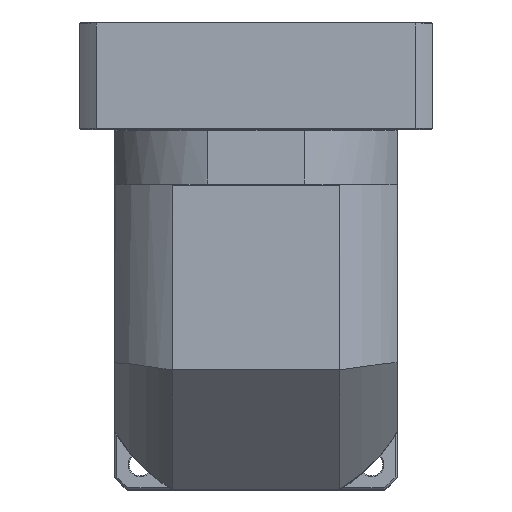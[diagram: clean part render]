
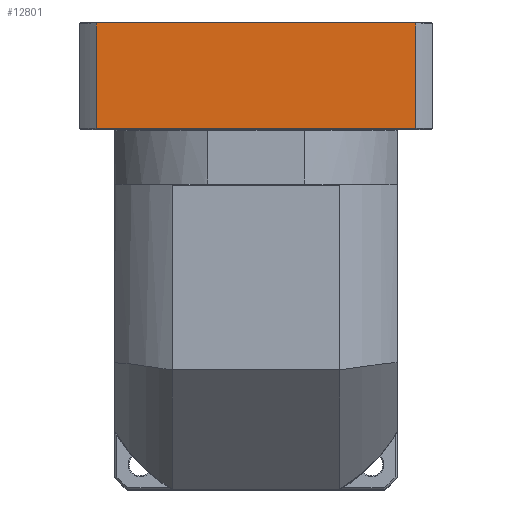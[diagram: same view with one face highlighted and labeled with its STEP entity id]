
A CAD part, top view. The second image highlights one B-rep face of the part: STEP entity #12801.
In plain terms, the highlighted planar face has unit normal (0, 0, 1).
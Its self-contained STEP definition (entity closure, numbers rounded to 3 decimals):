
#595 = CARTESIAN_POINT ( 'NONE',  ( 3.887, 228.851, 63.011 ) ) ;
#1087 = PLANE ( 'NONE',  #28655 ) ;
#3281 = DIRECTION ( 'NONE',  ( 1., 0., 0. ) ) ;
#4033 = VERTEX_POINT ( 'NONE', #98064 ) ;
#4935 = LINE ( 'NONE', #6380, #55524 ) ;
#6380 = CARTESIAN_POINT ( 'NONE',  ( 3.887, 175.351, 63.011 ) ) ;
#12801 = ADVANCED_FACE ( 'NONE', ( #36935 ), #1087, .F. ) ;
#15060 = EDGE_CURVE ( 'NONE', #38863, #137627, #133128, .T. ) ;
#21948 = EDGE_CURVE ( 'NONE', #44925, #38863, #103275, .T. ) ;
#22803 = CARTESIAN_POINT ( 'NONE',  ( -4.62, 228.351, 63.011 ) ) ;
#23496 = ORIENTED_EDGE ( 'NONE', *, *, #131158, .T. ) ;
#28655 = AXIS2_PLACEMENT_3D ( 'NONE', #595, #76542, #99240 ) ;
#36935 = FACE_OUTER_BOUND ( 'NONE', #46283, .T. ) ;
#38863 = VERTEX_POINT ( 'NONE', #124496 ) ;
#44925 = VERTEX_POINT ( 'NONE', #66857 ) ;
#45733 = VECTOR ( 'NONE', #68117, 1000. ) ;
#46084 = CARTESIAN_POINT ( 'NONE',  ( 3.887, 228.351, 63.011 ) ) ;
#46283 = EDGE_LOOP ( 'NONE', ( #95024, #23496, #95201, #115246 ) ) ;
#54816 = CARTESIAN_POINT ( 'NONE',  ( -4.62, -167.955, 63.011 ) ) ;
#55524 = VECTOR ( 'NONE', #81816, 1000. ) ;
#66857 = CARTESIAN_POINT ( 'NONE',  ( -165.605, 175.351, 63.011 ) ) ;
#68117 = DIRECTION ( 'NONE',  ( 0., 1., 0. ) ) ;
#76542 = DIRECTION ( 'NONE',  ( 0., 0., -1. ) ) ;
#79516 = CARTESIAN_POINT ( 'NONE',  ( -165.605, 228.851, 63.011 ) ) ;
#81816 = DIRECTION ( 'NONE',  ( 1., 0., 0. ) ) ;
#83714 = VECTOR ( 'NONE', #100648, 1000. ) ;
#95024 = ORIENTED_EDGE ( 'NONE', *, *, #21948, .F. ) ;
#95201 = ORIENTED_EDGE ( 'NONE', *, *, #128375, .F. ) ;
#95690 = LINE ( 'NONE', #54816, #83714 ) ;
#98064 = CARTESIAN_POINT ( 'NONE',  ( -4.62, 175.351, 63.011 ) ) ;
#99240 = DIRECTION ( 'NONE',  ( 0., -1., 0. ) ) ;
#100648 = DIRECTION ( 'NONE',  ( 0., -1., 0. ) ) ;
#103275 = LINE ( 'NONE', #79516, #45733 ) ;
#104514 = VECTOR ( 'NONE', #3281, 1000. ) ;
#115246 = ORIENTED_EDGE ( 'NONE', *, *, #15060, .F. ) ;
#124496 = CARTESIAN_POINT ( 'NONE',  ( -165.605, 228.351, 63.011 ) ) ;
#128375 = EDGE_CURVE ( 'NONE', #137627, #4033, #95690, .T. ) ;
#131158 = EDGE_CURVE ( 'NONE', #44925, #4033, #4935, .T. ) ;
#133128 = LINE ( 'NONE', #46084, #104514 ) ;
#137627 = VERTEX_POINT ( 'NONE', #22803 ) ;
